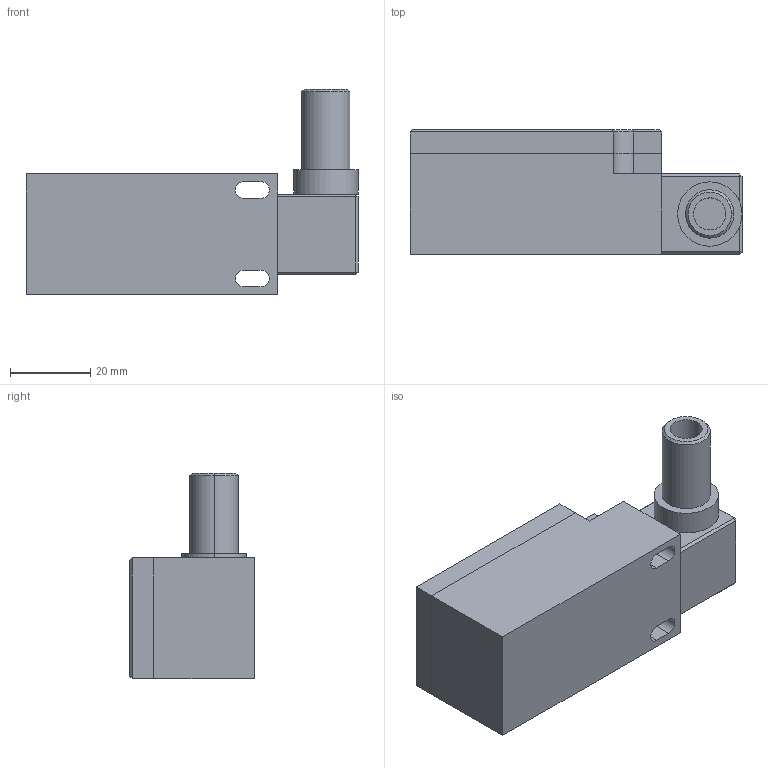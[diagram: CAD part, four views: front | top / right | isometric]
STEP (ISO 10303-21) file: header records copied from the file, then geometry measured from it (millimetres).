
FILE_DESCRIPTION (( 'STEP AP203' ), '1' );
FILE_NAME ('084.603.001-180°.STEP', '2017-03-22T08:22:38', ( 'Localadmin' ), ( 'Microsoft' ), 'SwSTEP 2.0', 'SolidWorks 2016', '' );
FILE_SCHEMA (( 'CONFIG_CONTROL_DESIGN' ));
Length unit declared in the file: millimetre
Products named in the file (1): 084.603.001-180°
Bounding box: 82.5 x 31 x 51 mm (x, y, z)
Volume: 64986.5 mm3; surface area: 17872 mm2
Topology: 5 solids, 5 shells, 74 faces, 168 edges, 104 vertices
Faces by surface type: plane 56, cylinder 14, cone 4
Entity records: 2113 total; most frequent: DIRECTION 350, CARTESIAN_POINT 347, ORIENTED_EDGE 336, EDGE_CURVE 168, LINE 136, VECTOR 136, AXIS2_PLACEMENT_3D 107, VERTEX_POINT 104
